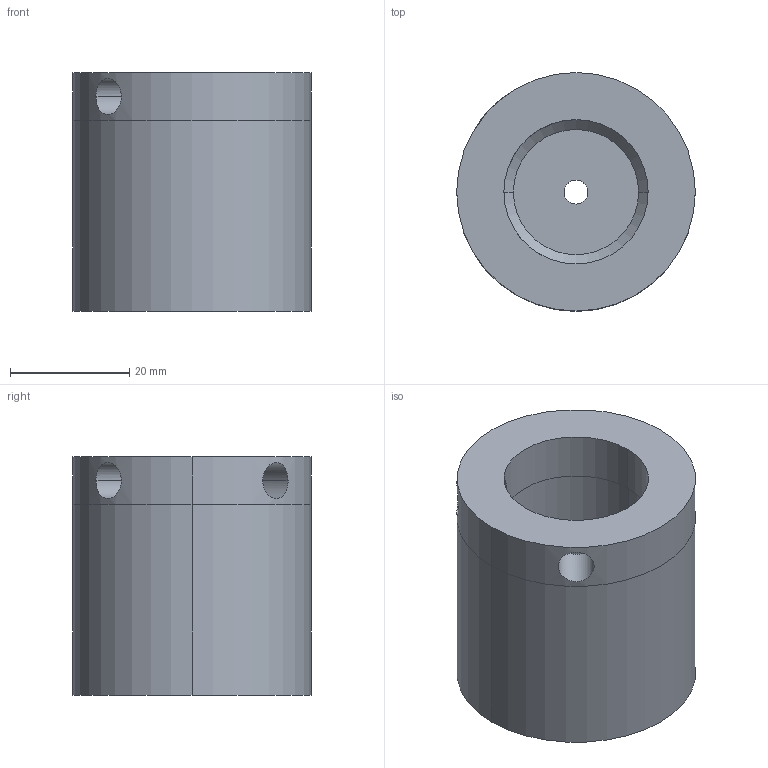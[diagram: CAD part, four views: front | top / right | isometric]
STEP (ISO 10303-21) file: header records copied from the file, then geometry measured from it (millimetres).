
FILE_DESCRIPTION(/* description */ (''),/* implementation_level */ '2;1');
FILE_NAME(/* name */ '3d_usn25-40_06268_r00.stp',/* time_stamp */ '2011-01-10T14:08:53+09:00',/* author */ ('MISUMI'),/* organization */ (''),/* preprocessor_version */ 'ST-DEVELOPER v11',/* originating_system */ 'UGS - NX 5.0',/* authorisation */ '');
FILE_SCHEMA (('CONFIG_CONTROL_DESIGN'));
Length unit declared in the file: millimetre
Products named in the file (1): 3d_usn25-40_06268_r00
Bounding box: 40 x 40 x 40 mm (x, y, z)
Volume: 33925.9 mm3; surface area: 10325.9 mm2
Topology: 1 solids, 1 shells, 20 faces, 44 edges, 28 vertices
Faces by surface type: cylinder 14, plane 4, cone 2
Entity records: 878 total; most frequent: CARTESIAN_POINT 333, DIRECTION 98, ORIENTED_EDGE 88, EDGE_CURVE 44, AXIS2_PLACEMENT_3D 41, EDGE_LOOP 28, VERTEX_POINT 28, ADVANCED_FACE 20
